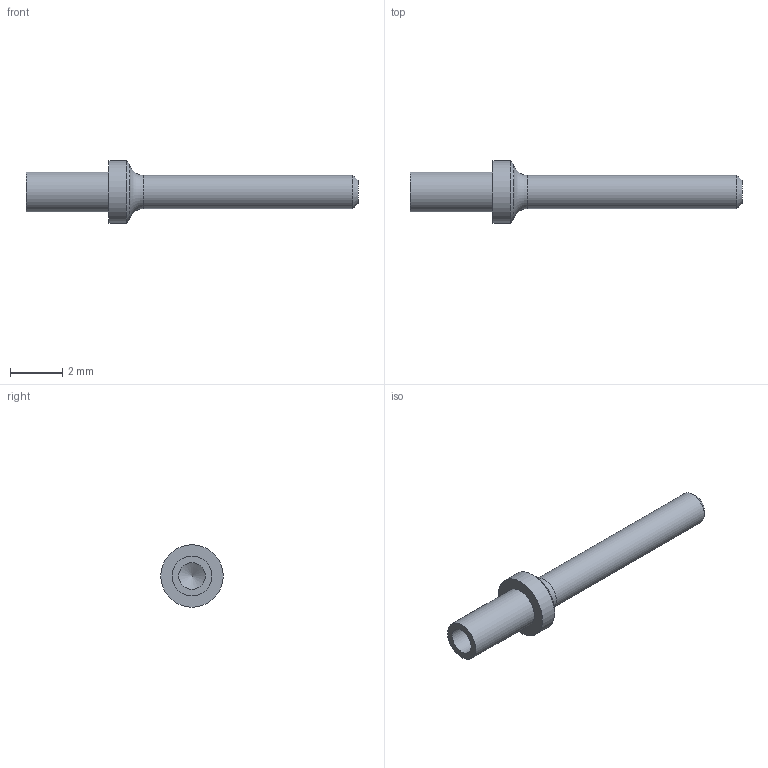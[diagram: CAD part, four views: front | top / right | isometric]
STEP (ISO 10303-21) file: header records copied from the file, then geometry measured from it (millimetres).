
FILE_DESCRIPTION(/* description */ (''),/* implementation_level */ '2;1');
FILE_NAME(/* name */ 'Z:\STEP folder\120-1134-03.ipt.stp',/* time_stamp */ '2016-12-07T10:27:17+00:00',/* author */ ('Paul Karlsons'),/* organization */ (''),/* preprocessor_version */ 'ST-DEVELOPER v15.2',/* originating_system */ 'Autodesk Inventor 2014',/* authorisation */ '');
FILE_SCHEMA (('AUTOMOTIVE_DESIGN { 1 0 10303 214 3 1 1 }'));
Length unit declared in the file: millimetre
Products named in the file (1): 120-1134-03
Bounding box: 12.7 x 2.39 x 2.39 mm (x, y, z)
Volume: 19 mm3; surface area: 68.9 mm2
Topology: 1 solids, 1 shells, 11 faces, 20 edges, 12 vertices
Faces by surface type: cylinder 4, cone 3, plane 3, torus 1
Full cylindrical faces by diameter (mm): 1.016 x1, 1.27 x1, 1.524 x1, 2.388 x1
Entity records: 235 total; most frequent: DIRECTION 44, CARTESIAN_POINT 32, AXIS2_PLACEMENT_3D 22, EDGE_LOOP 20, ORIENTED_EDGE 20, ADVANCED_FACE 11, FACE_BOUND 10, FACE_OUTER_BOUND 10
